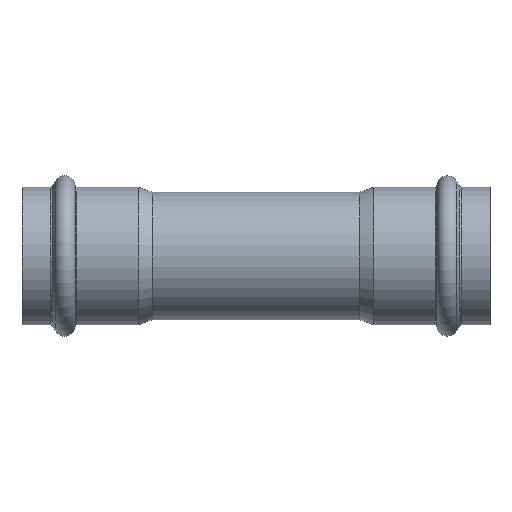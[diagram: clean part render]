
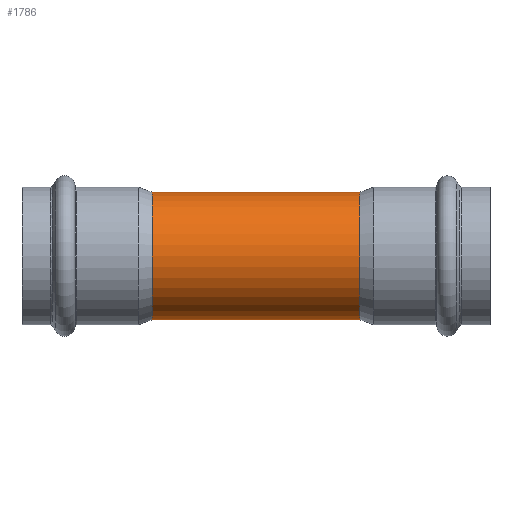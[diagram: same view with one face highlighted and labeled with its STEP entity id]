
A CAD part, front view. The second image highlights one B-rep face of the part: STEP entity #1786.
In plain terms, the highlighted cylindrical face has radius 21 mm (diameter 42 mm), a full revolution.
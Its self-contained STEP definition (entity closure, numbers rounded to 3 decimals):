
#1613=CARTESIAN_POINT('',(0.,17.601,11.455));
#1614=VERTEX_POINT('',#1613);
#1679=CARTESIAN_POINT('',(0.,17.601,11.455));
#1680=CARTESIAN_POINT('',(0.685,17.601,11.455));
#1681=CARTESIAN_POINT('',(1.6,17.65,11.379));
#1682=CARTESIAN_POINT('',(2.934,17.814,11.122));
#1683=CARTESIAN_POINT('',(4.024,18.002,10.817));
#1684=CARTESIAN_POINT('',(5.261,18.292,10.321));
#1685=CARTESIAN_POINT('',(6.326,18.601,9.755));
#1686=CARTESIAN_POINT('',(7.057,18.844,9.272));
#1687=CARTESIAN_POINT('',(7.756,19.091,8.754));
#1688=CARTESIAN_POINT('',(8.499,19.375,8.119));
#1689=CARTESIAN_POINT('',(9.671,19.865,6.873));
#1690=CARTESIAN_POINT('',(10.555,20.277,5.547));
#1691=CARTESIAN_POINT('',(11.098,20.543,4.373));
#1692=CARTESIAN_POINT('',(11.416,20.7,3.569));
#1693=CARTESIAN_POINT('',(11.757,20.874,2.457));
#1694=CARTESIAN_POINT('',(12.012,21.006,0.877));
#1695=CARTESIAN_POINT('',(12.011,21.006,-0.731));
#1696=CARTESIAN_POINT('',(11.849,20.922,-1.883));
#1697=CARTESIAN_POINT('',(11.597,20.792,-3.018));
#1698=CARTESIAN_POINT('',(11.281,20.632,-3.978));
#1699=CARTESIAN_POINT('',(10.794,20.394,-5.028));
#1700=CARTESIAN_POINT('',(10.3,20.159,-5.91));
#1701=CARTESIAN_POINT('',(9.643,19.859,-6.857));
#1702=CARTESIAN_POINT('',(8.893,19.537,-7.715));
#1703=CARTESIAN_POINT('',(7.955,19.163,-8.608));
#1704=CARTESIAN_POINT('',(6.8,18.745,-9.487));
#1705=CARTESIAN_POINT('',(5.273,18.287,-10.336));
#1706=CARTESIAN_POINT('',(3.595,17.908,-10.974));
#1707=CARTESIAN_POINT('',(1.826,17.659,-11.366));
#1708=CARTESIAN_POINT('',(-0.004,17.572,-11.499));
#1709=CARTESIAN_POINT('',(-1.831,17.66,-11.365));
#1710=CARTESIAN_POINT('',(-3.308,17.868,-11.037));
#1711=CARTESIAN_POINT('',(-4.441,18.099,-10.653));
#1712=CARTESIAN_POINT('',(-6.069,18.495,-9.968));
#1713=CARTESIAN_POINT('',(-7.798,19.086,-8.832));
#1714=CARTESIAN_POINT('',(-9.392,19.745,-7.196));
#1715=CARTESIAN_POINT('',(-10.292,20.154,-5.947));
#1716=CARTESIAN_POINT('',(-11.114,20.548,-4.436));
#1717=CARTESIAN_POINT('',(-11.704,20.846,-2.792));
#1718=CARTESIAN_POINT('',(-12.011,21.006,-0.873));
#1719=CARTESIAN_POINT('',(-12.012,21.006,0.878));
#1720=CARTESIAN_POINT('',(-11.732,20.861,2.607));
#1721=CARTESIAN_POINT('',(-11.19,20.586,4.256));
#1722=CARTESIAN_POINT('',(-10.395,20.2,5.808));
#1723=CARTESIAN_POINT('',(-9.47,19.781,7.086));
#1724=CARTESIAN_POINT('',(-8.49,19.371,8.128));
#1725=CARTESIAN_POINT('',(-7.167,18.867,9.254));
#1726=CARTESIAN_POINT('',(-5.297,18.268,10.383));
#1727=CARTESIAN_POINT('',(-2.742,17.734,11.253));
#1728=CARTESIAN_POINT('',(-0.914,17.601,11.455));
#1729=CARTESIAN_POINT('',(0.,17.601,11.455));
#1730=B_SPLINE_CURVE_WITH_KNOTS('',3,(#1679,#1680,#1681,#1682,#1683,#1684,#1685,#1686,#1687,#1688,#1689,#1690,#1691,#1692,#1693,#1694,#1695,#1696,#1697,#1698,#1699,#1700,#1701,#1702,#1703,#1704,#1705,#1706,#1707,#1708,#1709,#1710,#1711,#1712,#1713,#1714,#1715,#1716,#1717,#1718,#1719,#1720,#1721,#1722,#1723,#1724,#1725,#1726,#1727,#1728,#1729),.UNSPECIFIED.,.T.,.U.,(4,1,1,1,1,1,1,1,1,1,1,1,1,1,1,1,1,1,1,1,1,1,1,1,1,1,1,1,1,1,1,1,1,1,1,1,1,1,1,1,1,1,1,1,1,1,1,1,4),(-6.781,-6.599,-6.539,-6.418,-6.296,-6.175,-6.085,-6.054,-5.933,-5.812,-5.57,-5.489,-5.449,-5.328,-5.166,-5.005,-4.884,-4.843,-4.682,-4.601,-4.521,-4.399,-4.278,-4.198,-4.036,-3.875,-3.713,-3.552,-3.39,-3.229,-3.067,-2.987,-2.906,-2.583,-2.422,-2.26,-2.153,-1.937,-1.776,-1.614,-1.453,-1.292,-1.13,-0.969,-0.848,-0.727,-0.484,-0.242,0.0),.UNSPECIFIED.);
#1731=EDGE_CURVE('',#1614,#1614,#1730,.T.);
#1756=CARTESIAN_POINT('',(0.0,0.0,0.0));
#1757=DIRECTION('',(1.0,0.,0.0));
#1758=DIRECTION('',(0.0,1.0,0.0));
#1759=AXIS2_PLACEMENT_3D('',#1756,#1757,#1758);
#1760=CYLINDRICAL_SURFACE('',#1759,21.0);
#1761=CARTESIAN_POINT('',(-34.202,21.0,0.0));
#1762=VERTEX_POINT('',#1761);
#1763=CARTESIAN_POINT('',(-34.202,0.,0.0));
#1764=DIRECTION('',(1.0,0.0,0.0));
#1765=DIRECTION('',(0.0,1.0,0.0));
#1766=AXIS2_PLACEMENT_3D('',#1763,#1764,#1765);
#1767=CIRCLE('',#1766,21.);
#1768=EDGE_CURVE('',#1762,#1762,#1767,.T.);
#1769=ORIENTED_EDGE('',*,*,#1768,.T.);
#1770=EDGE_LOOP('',(#1769));
#1771=FACE_OUTER_BOUND('',#1770,.T.);
#1772=CARTESIAN_POINT('',(34.202,21.0,0.0));
#1773=VERTEX_POINT('',#1772);
#1774=CARTESIAN_POINT('',(34.202,0.,0.0));
#1775=DIRECTION('',(1.0,0.0,0.0));
#1776=DIRECTION('',(0.0,1.0,0.0));
#1777=AXIS2_PLACEMENT_3D('',#1774,#1775,#1776);
#1778=CIRCLE('',#1777,21.);
#1779=EDGE_CURVE('',#1773,#1773,#1778,.T.);
#1780=ORIENTED_EDGE('',*,*,#1779,.F.);
#1781=EDGE_LOOP('',(#1780));
#1782=FACE_BOUND('',#1781,.T.);
#1783=ORIENTED_EDGE('',*,*,#1731,.F.);
#1784=EDGE_LOOP('',(#1783));
#1785=FACE_BOUND('',#1784,.T.);
#1786=ADVANCED_FACE('',(#1771,#1782,#1785),#1760,.T.);
